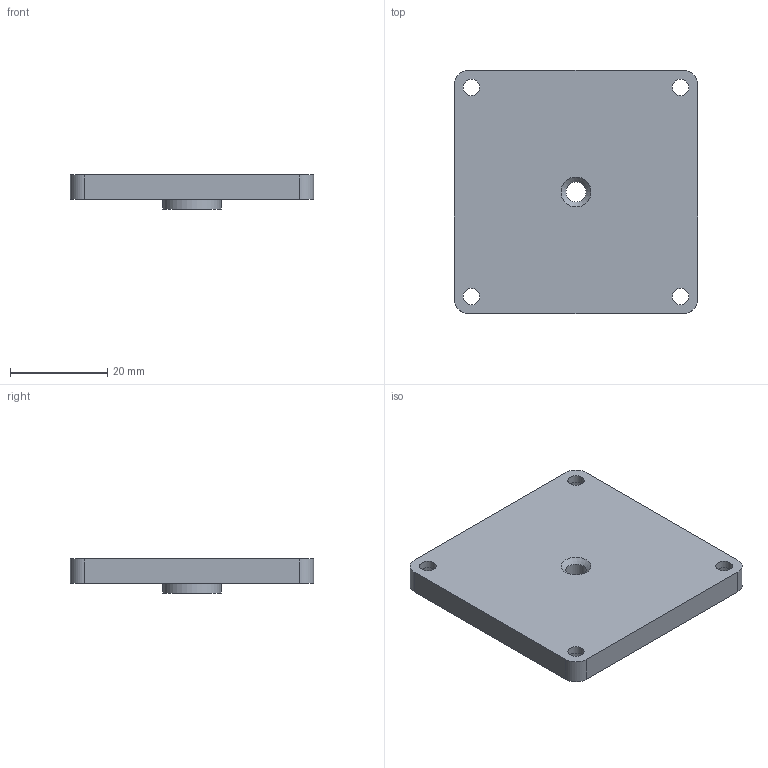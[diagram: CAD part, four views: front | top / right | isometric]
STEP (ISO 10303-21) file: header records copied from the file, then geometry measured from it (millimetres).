
FILE_DESCRIPTION(/* description */ ('Lid Chuck Baremodule'),/* implementation_level */ '2;1');
FILE_NAME(/* name */ 'Z:\Werkstatt Server\Projekte\Atlas\Entwicklung u. Konstruktion\Konstruktion\CAD Daten\ITkPixToolV2.0\Baremodule Jig\Pivote Plate\ITPTv2.01.01.02.stp',/* time_stamp */ '2021-08-06T14:18:00+02:00',/* author */ ('Tim Kanngießer'),/* organization */ (''),/* preprocessor_version */ 'ST-DEVELOPER v18.1',/* originating_system */ 'Autodesk Inventor 2022',/* authorisation */ '');
FILE_SCHEMA (('AUTOMOTIVE_DESIGN { 1 0 10303 214 3 1 1 }'));
Length unit declared in the file: millimetre
Products named in the file (1): ITPTv2.01.01.02
Bounding box: 50 x 50 x 7 mm (x, y, z)
Volume: 12076.7 mm3; surface area: 6365.4 mm2
Topology: 1 solids, 1 shells, 26 faces, 56 edges, 37 vertices
Faces by surface type: cylinder 14, plane 11, cone 1
Full cylindrical faces by diameter (mm): 3.4 x4, 4.134 x1, 6.5 x4, 12 x1
Entity records: 791 total; most frequent: DIRECTION 139, CARTESIAN_POINT 120, ORIENTED_EDGE 112, EDGE_CURVE 56, AXIS2_PLACEMENT_3D 56, EDGE_LOOP 41, VERTEX_POINT 37, CIRCLE 29
